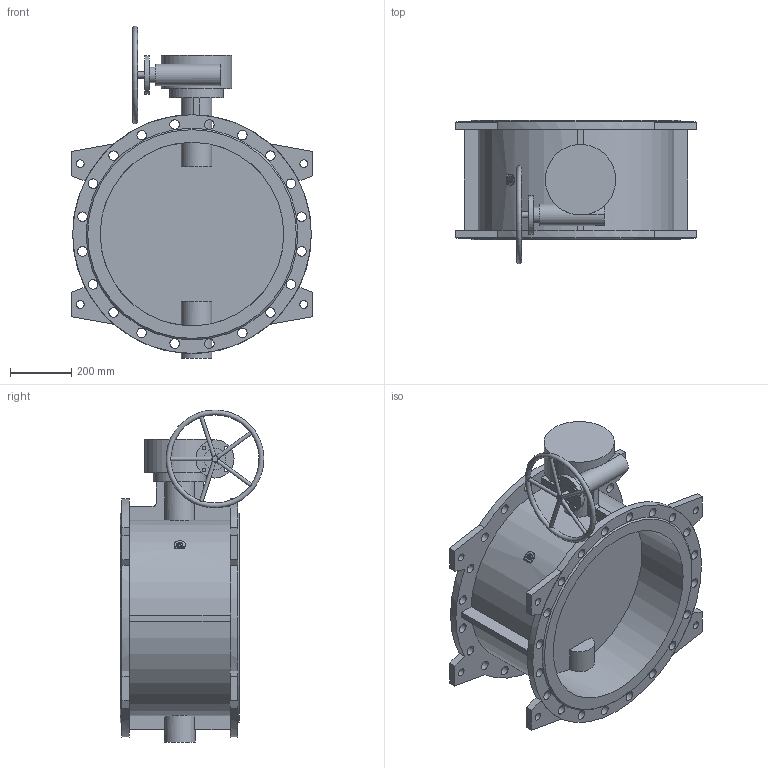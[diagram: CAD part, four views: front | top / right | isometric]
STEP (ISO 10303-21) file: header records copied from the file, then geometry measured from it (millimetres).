
FILE_DESCRIPTION(('STEP AP203'), '1');
FILE_NAME('Çàòâîð 023F.Z DN600 PN10_ìàõ', '', ('UNSPECIFIED'), ('UNSPECIFIED'), 'ASCON STEP Converter 1.6', 'ASCON Math Kernel', '');
FILE_SCHEMA(('CONFIG_CONTROL_DESIGN'));
Length unit declared in the file: millimetre
Bounding box: 790 x 469.87 x 1084.93 mm (x, y, z)
Volume: 49464546.8 mm3; surface area: 3374909.5 mm2
Topology: 1 solids, 1 shells, 189 faces, 504 edges, 335 vertices
Faces by surface type: cylinder 96, plane 90, cone 2, torus 1
Full cylindrical faces by diameter (mm): 12 x9, 14 x4, 18 x4, 20 x2, 25 x8, 31 x40, 50 x1, 70 x2, 100 x1, 125 x1, 175 x1, 230 x1, 600 x2, 780 x2
Entity records: 10420 total; most frequent: CARTESIAN_POINT 4196, DIRECTION 943, ORIENTED_EDGE 838, EDGE_CURVE 419, EDGE_LOOP 400, AXIS2_PLACEMENT_3D 381, VERTEX_POINT 333, FACE_BOUND 252
